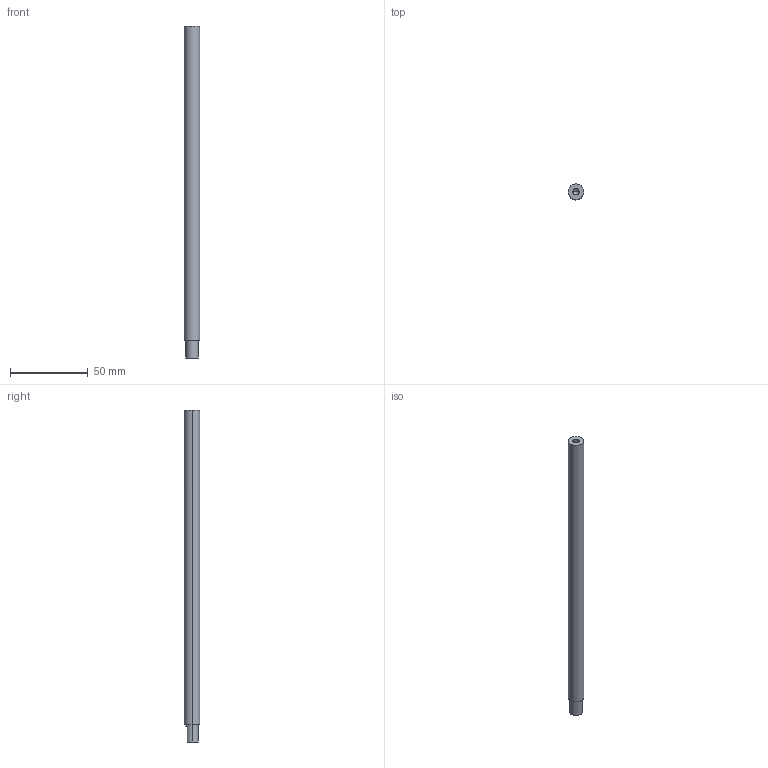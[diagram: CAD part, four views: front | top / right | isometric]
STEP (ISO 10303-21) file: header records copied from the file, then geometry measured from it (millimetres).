
FILE_DESCRIPTION(/* description */ (''),/* implementation_level */ '2;1');
FILE_NAME(/* name */ 'CWC-CY0019-P99_Cylinder Shaft.stp',/* time_stamp */ '2026-02-19T08:25:16+01:00',/* author */ (''),/* organization */ (''),/* preprocessor_version */ 'ST-DEVELOPER v18.1',/* originating_system */ 'SIEMENS PLM Software NX 1988',/* authorisation */ '');
FILE_SCHEMA (('AUTOMOTIVE_DESIGN { 1 0 10303 214 3 1 1 1 }'));
Length unit declared in the file: millimetre
Products named in the file (1): anto80DCB5E9liqq
Bounding box: 10 x 10 x 213 mm (x, y, z)
Volume: 15881.3 mm3; surface area: 7241.1 mm2
Topology: 1 solids, 1 shells, 21 faces, 50 edges, 30 vertices
Faces by surface type: cylinder 12, plane 5, cone 4
Entity records: 746 total; most frequent: CARTESIAN_POINT 238, DIRECTION 100, ORIENTED_EDGE 92, EDGE_CURVE 46, AXIS2_PLACEMENT_3D 40, VERTEX_POINT 30, EDGE_LOOP 28, ADVANCED_FACE 21
